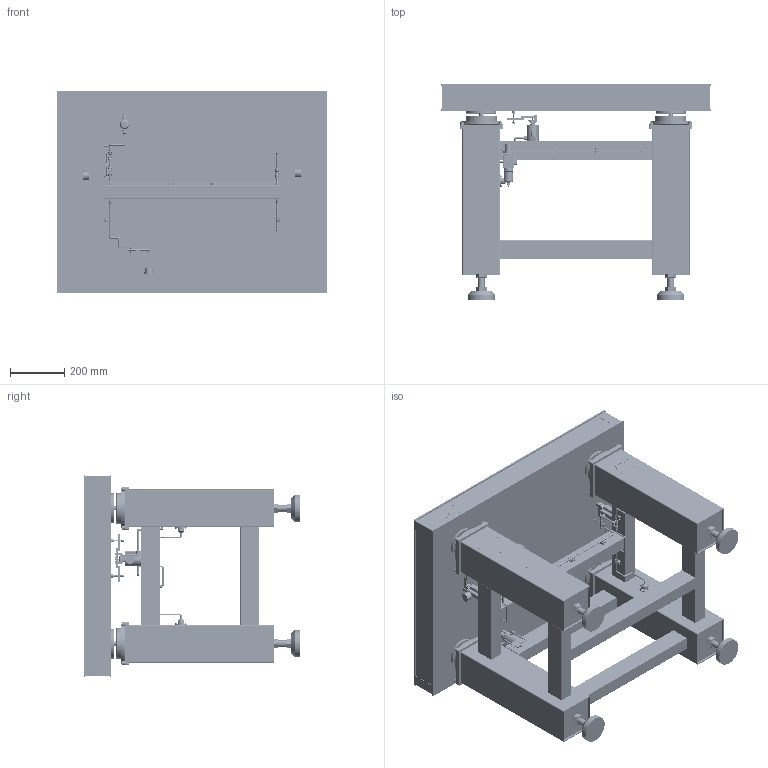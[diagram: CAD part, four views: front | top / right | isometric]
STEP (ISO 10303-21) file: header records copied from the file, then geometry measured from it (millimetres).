
FILE_DESCRIPTION (( 'STEP AP203' ), '1' );
FILE_NAME ('GPE-1007 ¹âÑ§Æ½Ì¨.STEP', '2018-02-06T03:06:46', ( 'pc' ), ( '' ), 'SwSTEP 2.0', 'SolidWorks 2016', '' );
FILE_SCHEMA (( 'CONFIG_CONTROL_DESIGN' ));
Products named in the file (1): GPE-1007 嫖悝す怢
Bounding box: 1000 x 800 x 750 mm (x, y, z)
Volume: 22228048.9 mm3; surface area: 9378679.5 mm2
Topology: 232 solids, 232 shells, 11376 faces, 29077 edges, 18537 vertices
Faces by surface type: cylinder 4707, plane 3807, bspline 1392, cone 962, torus 452, sphere 56
Entity records: 366423 total; most frequent: CARTESIAN_POINT 87837, ORIENTED_EDGE 57562, DIRECTION 56863, EDGE_CURVE 28781, AXIS2_PLACEMENT_3D 21360, VERTEX_POINT 18537, EDGE_LOOP 14826, LINE 14143
